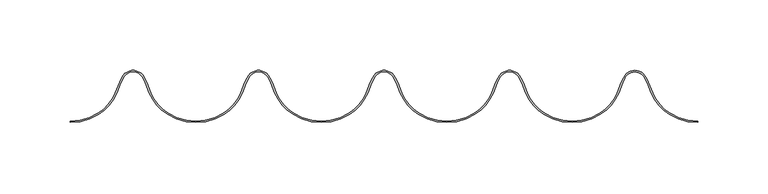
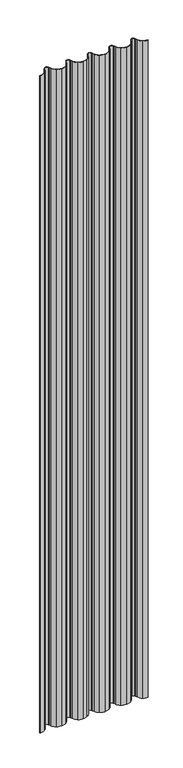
"""IFC4 building model written with IfcOpenShell, lengths in millimetres: plate geometry, Regolare Vertical 445 : Regolare Vertical 445."""

from ifc_helpers import new_model, si_unit, point, frame_2d, origin, origin_with_axes, place, context, project, spatial, polyline, circle_curve, trimmed, segment, composite_curve, outline, extrude, source, transform, mapped, element, save


def plate_702065da(model_context):
    return source(origin(), model_context, "Body", "SweptSolid", [
        extrude(outline(composite_curve([segment(trimmed(circle_curve(frame_2d((222.6287227, 38.4503244)), 37.4503244), [point((203.0879726, 6.5021495))], [point((222.6287227, 1.0))], True, "CARTESIAN"), True, "CONTINUOUS"), segment(polyline([(222.6287227, 1.0), (222.6287227, 0.0)]), True, "CONTINUOUS"), segment(trimmed(circle_curve(frame_2d((222.6287227, 38.4503244)), 38.4503244), [point((222.6287227, 0.0))], [point((202.5661947, 5.6490681))], False, "CARTESIAN"), True, "CONTINUOUS"), segment(trimmed(circle_curve(frame_2d((219.0630775, 32.6206681)), 31.6166783), [point((202.5661947, 5.6490681))], [point((189.7075932, 20.878867))], False, "CARTESIAN"), True, "CONTINUOUS"), segment(polyline([(189.7075932, 20.878867), (186.8383715, 28.0423924), (185.1920178, 31.4771017)]), True, "CONTINUOUS"), segment(trimmed(circle_curve(frame_2d((178.1029782, 28.0791236)), 7.8613445), [point((185.1920178, 31.4771017))], [point((178.1029782, 35.9404682))], True, "CARTESIAN"), True, "CONTINUOUS"), segment(trimmed(circle_curve(frame_2d((178.1029782, 28.0791236)), 7.8613445), [point((178.1029782, 35.9404682))], [point((171.0139385, 31.4771017))], True, "CARTESIAN"), True, "CONTINUOUS"), segment(polyline([(171.0139385, 31.4771017), (169.3675848, 28.0423924), (166.4983631, 20.878867)]), True, "CONTINUOUS"), segment(trimmed(circle_curve(frame_2d((137.1428789, 32.6206681)), 31.6166783), [point((166.4983631, 20.878867))], [point((153.6397616, 5.6490681))], False, "CARTESIAN"), True, "CONTINUOUS"), segment(trimmed(circle_curve(frame_2d((133.5772336, 38.4503244)), 38.4503244), [point((153.6397616, 5.6490681))], [point((133.5772336, 0.0))], False, "CARTESIAN"), True, "CONTINUOUS"), segment(trimmed(circle_curve(frame_2d((133.5772336, 38.4503244)), 38.4503244), [point((133.5772336, 0.0))], [point((113.5147056, 5.6490681))], False, "CARTESIAN"), True, "CONTINUOUS"), segment(trimmed(circle_curve(frame_2d((130.0115884, 32.6206681)), 31.6166783), [point((113.5147056, 5.6490681))], [point((100.6561042, 20.878867))], False, "CARTESIAN"), True, "CONTINUOUS"), segment(polyline([(100.6561042, 20.878867), (97.7868824, 28.0423924), (96.1405287, 31.4771017)]), True, "CONTINUOUS"), segment(trimmed(circle_curve(frame_2d((89.0514891, 28.0791236)), 7.8613445), [point((96.1405287, 31.4771017))], [point((81.9624494, 31.4771017))], True, "CARTESIAN"), True, "CONTINUOUS"), segment(polyline([(81.9624494, 31.4771017), (80.3160957, 28.0423924), (77.446874, 20.878867)]), True, "CONTINUOUS"), segment(trimmed(circle_curve(frame_2d((48.0913898, 32.6206681)), 31.6166783), [point((77.446874, 20.878867))], [point((64.5882725, 5.6490681))], False, "CARTESIAN"), True, "CONTINUOUS"), segment(trimmed(circle_curve(frame_2d((44.5257445, 38.4503244)), 38.4503244), [point((64.5882725, 5.6490681))], [point((44.5257445, 0.0))], False, "CARTESIAN"), True, "CONTINUOUS"), segment(trimmed(circle_curve(frame_2d((44.5257445, 38.4503244)), 38.4503244), [point((44.5257445, 0.0))], [point((24.4632165, 5.6490681))], False, "CARTESIAN"), True, "CONTINUOUS"), segment(trimmed(circle_curve(frame_2d((40.9600993, 32.6206681)), 31.6166783), [point((24.4632165, 5.6490681))], [point((11.6046151, 20.878867))], False, "CARTESIAN"), True, "CONTINUOUS"), segment(polyline([(11.6046151, 20.878867), (8.7353934, 28.0423924), (7.0890396, 31.4771017)]), True, "CONTINUOUS"), segment(trimmed(circle_curve(frame_2d((0.0, 28.0791236)), 7.8613445), [point((7.0890396, 31.4771017))], [point((-7.0890396, 31.4771017))], True, "CARTESIAN"), True, "CONTINUOUS"), segment(polyline([(-7.0890396, 31.4771017), (-8.7353934, 28.0423924), (-11.6046151, 20.878867)]), True, "CONTINUOUS"), segment(trimmed(circle_curve(frame_2d((-40.9600993, 32.6206681)), 31.6166783), [point((-11.6046151, 20.878867))], [point((-24.4632165, 5.6490681))], False, "CARTESIAN"), True, "CONTINUOUS"), segment(trimmed(circle_curve(frame_2d((-44.5257445, 38.4503244)), 38.4503244), [point((-24.4632165, 5.6490681))], [point((-44.5257445, 0.0))], False, "CARTESIAN"), True, "CONTINUOUS"), segment(trimmed(circle_curve(frame_2d((-44.5257445, 38.4503244)), 38.4503244), [point((-44.5257445, 0.0))], [point((-64.5882725, 5.6490681))], False, "CARTESIAN"), True, "CONTINUOUS"), segment(trimmed(circle_curve(frame_2d((-48.0913898, 32.6206681)), 31.6166783), [point((-64.5882725, 5.6490681))], [point((-77.446874, 20.878867))], False, "CARTESIAN"), True, "CONTINUOUS"), segment(polyline([(-77.446874, 20.878867), (-80.3160957, 28.0423924), (-81.9624494, 31.4771017)]), True, "CONTINUOUS"), segment(trimmed(circle_curve(frame_2d((-89.0514891, 28.0791236)), 7.8613445), [point((-81.9624494, 31.4771017))], [point((-96.1405287, 31.4771017))], True, "CARTESIAN"), True, "CONTINUOUS"), segment(polyline([(-96.1405287, 31.4771017), (-97.7868824, 28.0423924), (-100.6561042, 20.878867)]), True, "CONTINUOUS"), segment(trimmed(circle_curve(frame_2d((-130.0115884, 32.6206681)), 31.6166783), [point((-100.6561042, 20.878867))], [point((-113.5147056, 5.6490681))], False, "CARTESIAN"), True, "CONTINUOUS"), segment(trimmed(circle_curve(frame_2d((-133.5772336, 38.4503244)), 38.4503244), [point((-113.5147056, 5.6490681))], [point((-133.5772336, 0.0))], False, "CARTESIAN"), True, "CONTINUOUS"), segment(trimmed(circle_curve(frame_2d((-133.5772336, 38.4503244)), 38.4503244), [point((-133.5772336, 0.0))], [point((-153.6397616, 5.6490681))], False, "CARTESIAN"), True, "CONTINUOUS"), segment(trimmed(circle_curve(frame_2d((-137.1428789, 32.6206681)), 31.6166783), [point((-153.6397616, 5.6490681))], [point((-166.4983631, 20.878867))], False, "CARTESIAN"), True, "CONTINUOUS"), segment(polyline([(-166.4983631, 20.878867), (-169.3675848, 28.0423924), (-171.0139385, 31.4771017)]), True, "CONTINUOUS"), segment(trimmed(circle_curve(frame_2d((-178.1029782, 28.0791236)), 7.8613445), [point((-171.0139385, 31.4771017))], [point((-185.1920178, 31.4771017))], True, "CARTESIAN"), True, "CONTINUOUS"), segment(polyline([(-185.1920178, 31.4771017), (-186.8383715, 28.0423924), (-189.7075932, 20.878867)]), True, "CONTINUOUS"), segment(trimmed(circle_curve(frame_2d((-219.0630775, 32.6206681)), 31.6166783), [point((-189.7075932, 20.878867))], [point((-202.5661947, 5.6490681))], False, "CARTESIAN"), True, "CONTINUOUS"), segment(trimmed(circle_curve(frame_2d((-222.6287227, 38.4503244)), 38.4503244), [point((-202.5661947, 5.6490681))], [point((-222.6287227, 0.0))], False, "CARTESIAN"), True, "CONTINUOUS"), segment(polyline([(-222.6287227, 0.0), (-222.6287227, 1.0)]), True, "CONTINUOUS"), segment(trimmed(circle_curve(frame_2d((-222.6287227, 38.4503244)), 37.4503244), [point((-222.6287227, 1.0))], [point((-203.0879726, 6.5021495))], True, "CARTESIAN"), True, "CONTINUOUS"), segment(trimmed(circle_curve(frame_2d((-219.0630775, 32.6206681)), 30.6166783), [point((-203.0879726, 6.5021495))], [point((-190.6359876, 21.2504634))], True, "CARTESIAN"), True, "CONTINUOUS"), segment(polyline([(-190.6359876, 21.2504634), (-187.7544017, 28.4448583), (-186.093777, 31.9093405)]), True, "CONTINUOUS"), segment(trimmed(circle_curve(frame_2d((-178.1029782, 28.0791236)), 8.8613445), [point((-186.093777, 31.9093405))], [point((-170.1121793, 31.9093405))], False, "CARTESIAN"), True, "CONTINUOUS"), segment(polyline([(-170.1121793, 31.9093405), (-168.4515546, 28.4448583), (-165.5699687, 21.2504634)]), True, "CONTINUOUS"), segment(trimmed(circle_curve(frame_2d((-137.1428789, 32.6206681)), 30.6166783), [point((-165.5699687, 21.2504634))], [point((-153.1179838, 6.5021495))], True, "CARTESIAN"), True, "CONTINUOUS"), segment(trimmed(circle_curve(frame_2d((-133.5772336, 38.4503244)), 37.4503244), [point((-153.1179838, 6.5021495))], [point((-133.5772336, 1.0))], True, "CARTESIAN"), True, "CONTINUOUS"), segment(trimmed(circle_curve(frame_2d((-133.5772336, 38.4503244)), 37.4503244), [point((-133.5772336, 1.0))], [point((-114.0364835, 6.5021495))], True, "CARTESIAN"), True, "CONTINUOUS"), segment(trimmed(circle_curve(frame_2d((-130.0115884, 32.6206681)), 30.6166783), [point((-114.0364835, 6.5021495))], [point((-101.5844985, 21.2504634))], True, "CARTESIAN"), True, "CONTINUOUS"), segment(polyline([(-101.5844985, 21.2504634), (-98.7029126, 28.4448583), (-97.0422879, 31.9093405)]), True, "CONTINUOUS"), segment(trimmed(circle_curve(frame_2d((-89.0514891, 28.0791236)), 8.8613445), [point((-97.0422879, 31.9093405))], [point((-81.0606903, 31.9093405))], False, "CARTESIAN"), True, "CONTINUOUS"), segment(polyline([(-81.0606903, 31.9093405), (-79.4000655, 28.4448583), (-76.5184796, 21.2504634)]), True, "CONTINUOUS"), segment(trimmed(circle_curve(frame_2d((-48.0913898, 32.6206681)), 30.6166783), [point((-76.5184796, 21.2504634))], [point((-64.0664947, 6.5021495))], True, "CARTESIAN"), True, "CONTINUOUS"), segment(trimmed(circle_curve(frame_2d((-44.5257445, 38.4503244)), 37.4503244), [point((-64.0664947, 6.5021495))], [point((-44.5257445, 1.0))], True, "CARTESIAN"), True, "CONTINUOUS"), segment(trimmed(circle_curve(frame_2d((-44.5257445, 38.4503244)), 37.4503244), [point((-44.5257445, 1.0))], [point((-24.9849944, 6.5021495))], True, "CARTESIAN"), True, "CONTINUOUS"), segment(trimmed(circle_curve(frame_2d((-40.9600993, 32.6206681)), 30.6166783), [point((-24.9849944, 6.5021495))], [point((-12.5330095, 21.2504634))], True, "CARTESIAN"), True, "CONTINUOUS"), segment(polyline([(-12.5330095, 21.2504634), (-9.6514235, 28.4448583), (-7.9907988, 31.9093405)]), True, "CONTINUOUS"), segment(trimmed(circle_curve(frame_2d((0.0, 28.0791236)), 8.8613445), [point((-7.9907988, 31.9093405))], [point((7.9907988, 31.9093405))], False, "CARTESIAN"), True, "CONTINUOUS"), segment(polyline([(7.9907988, 31.9093405), (9.6514235, 28.4448583), (12.5330095, 21.2504634)]), True, "CONTINUOUS"), segment(trimmed(circle_curve(frame_2d((40.9600993, 32.6206681)), 30.6166783), [point((12.5330095, 21.2504634))], [point((24.9849944, 6.5021495))], True, "CARTESIAN"), True, "CONTINUOUS"), segment(trimmed(circle_curve(frame_2d((44.5257445, 38.4503244)), 37.4503244), [point((24.9849944, 6.5021495))], [point((44.5257445, 1.0))], True, "CARTESIAN"), True, "CONTINUOUS"), segment(trimmed(circle_curve(frame_2d((44.5257445, 38.4503244)), 37.4503244), [point((44.5257445, 1.0))], [point((64.0664947, 6.5021495))], True, "CARTESIAN"), True, "CONTINUOUS"), segment(trimmed(circle_curve(frame_2d((48.0913898, 32.6206681)), 30.6166783), [point((64.0664947, 6.5021495))], [point((76.5184796, 21.2504634))], True, "CARTESIAN"), True, "CONTINUOUS"), segment(polyline([(76.5184796, 21.2504634), (79.4000655, 28.4448583), (81.0606903, 31.9093405)]), True, "CONTINUOUS"), segment(trimmed(circle_curve(frame_2d((89.0514891, 28.0791236)), 8.8613445), [point((81.0606903, 31.9093405))], [point((97.0422879, 31.9093405))], False, "CARTESIAN"), True, "CONTINUOUS"), segment(polyline([(97.0422879, 31.9093405), (98.7029126, 28.4448583), (101.5844985, 21.2504634)]), True, "CONTINUOUS"), segment(trimmed(circle_curve(frame_2d((130.0115884, 32.6206681)), 30.6166783), [point((101.5844985, 21.2504634))], [point((114.0364835, 6.5021495))], True, "CARTESIAN"), True, "CONTINUOUS"), segment(trimmed(circle_curve(frame_2d((133.5772336, 38.4503244)), 37.4503244), [point((114.0364835, 6.5021495))], [point((133.5772336, 1.0))], True, "CARTESIAN"), True, "CONTINUOUS"), segment(trimmed(circle_curve(frame_2d((133.5772336, 38.4503244)), 37.4503244), [point((133.5772336, 1.0))], [point((153.1179838, 6.5021495))], True, "CARTESIAN"), True, "CONTINUOUS"), segment(trimmed(circle_curve(frame_2d((137.1428789, 32.6206681)), 30.6166783), [point((153.1179838, 6.5021495))], [point((165.5699687, 21.2504634))], True, "CARTESIAN"), True, "CONTINUOUS"), segment(polyline([(165.5699687, 21.2504634), (168.4515546, 28.4448583), (170.1121793, 31.9093405)]), True, "CONTINUOUS"), segment(trimmed(circle_curve(frame_2d((178.1029782, 28.0791236)), 8.8613445), [point((170.1121793, 31.9093405))], [point((178.1029782, 36.9404682))], False, "CARTESIAN"), True, "CONTINUOUS"), segment(trimmed(circle_curve(frame_2d((178.1029782, 28.0791236)), 8.8613445), [point((178.1029782, 36.9404682))], [point((186.093777, 31.9093405))], False, "CARTESIAN"), True, "CONTINUOUS"), segment(polyline([(186.093777, 31.9093405), (187.7544017, 28.4448583), (190.6359876, 21.2504634)]), True, "CONTINUOUS"), segment(trimmed(circle_curve(frame_2d((219.0630775, 32.6206681)), 30.6166783), [point((190.6359876, 21.2504634))], [point((203.0879726, 6.5021495))], True, "CARTESIAN"), True, "CONTINUOUS")], self_intersect=False)), origin_with_axes(), (0.0, 0.0, 1.0), 2859.2009216),
    ])


if __name__ == "__main__":
    model = new_model("IFC4")
    model_context = context("Model", 3, world=origin())
    ifc_project = project(units=[si_unit("LENGTHUNIT", "METRE", prefix="MILLI")], contexts=[model_context])
    site = spatial("IfcSite", under=ifc_project)
    building = spatial("IfcBuilding", under=site)
    placement = place(None, origin())
    plate_shape = plate_702065da(model_context)
    element("IfcPlate", 1, ObjectType="Regolare Vertical 445 : Regolare Vertical 445", at=placement, inside=building, context=model_context, shape_type="MappedRepresentation", body=[
        mapped(plate_shape, transform((0.0, 0.0, 0.0), x_axis=(1.0, 0.0, 0.0), y_axis=(0.0, 1.0, 0.0), z_axis=(0.0, 0.0, 1.0))),
    ])
    save(model, "model.ifc")
